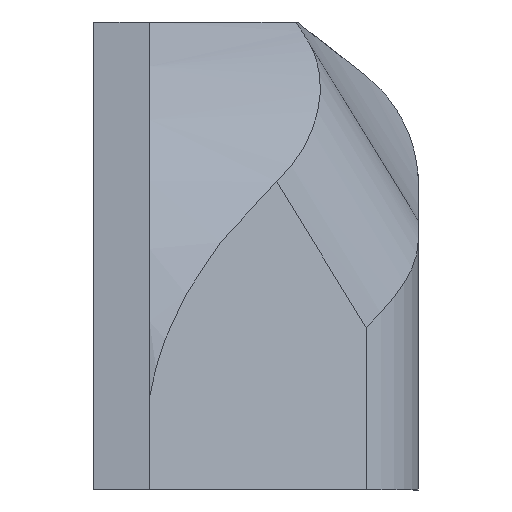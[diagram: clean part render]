
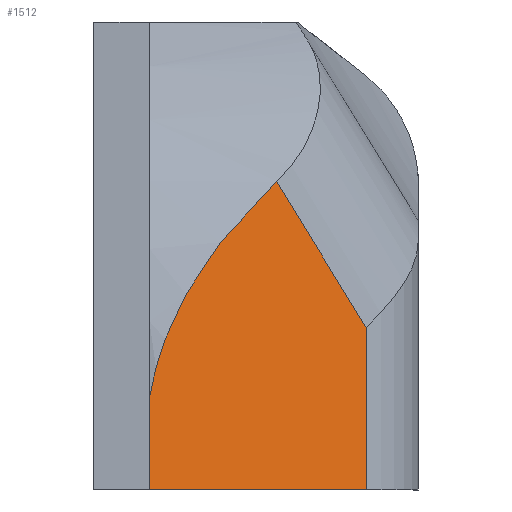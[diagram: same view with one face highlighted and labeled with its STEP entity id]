
A CAD part, front view. The second image highlights one B-rep face of the part: STEP entity #1512.
In plain terms, the highlighted planar face has unit normal (0.5, -0.866, 0).
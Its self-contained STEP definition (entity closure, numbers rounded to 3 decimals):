
#36=ELLIPSE('',#1633,140.636,70.318);
#114=FACE_OUTER_BOUND('',#205,.T.);
#205=EDGE_LOOP('',(#1117,#1118,#1119,#1120,#1121));
#309=LINE('',#2168,#467);
#331=LINE('',#2311,#489);
#357=LINE('',#2393,#515);
#358=LINE('',#2394,#516);
#467=VECTOR('',#1732,10.);
#489=VECTOR('',#1802,10.);
#515=VECTOR('',#1898,10.);
#516=VECTOR('',#1899,10.);
#628=VERTEX_POINT('',#2165);
#629=VERTEX_POINT('',#2167);
#664=VERTEX_POINT('',#2276);
#668=VERTEX_POINT('',#2296);
#686=VERTEX_POINT('',#2363);
#774=EDGE_CURVE('',#628,#629,#309,.T.);
#815=EDGE_CURVE('',#664,#668,#331,.T.);
#841=EDGE_CURVE('',#668,#686,#36,.T.);
#856=EDGE_CURVE('',#664,#628,#357,.T.);
#857=EDGE_CURVE('',#629,#686,#358,.T.);
#1117=ORIENTED_EDGE('',*,*,#856,.F.);
#1118=ORIENTED_EDGE('',*,*,#815,.T.);
#1119=ORIENTED_EDGE('',*,*,#841,.T.);
#1120=ORIENTED_EDGE('',*,*,#857,.F.);
#1121=ORIENTED_EDGE('',*,*,#774,.F.);
#1440=PLANE('',#1643);
#1512=ADVANCED_FACE('',(#114),#1440,.F.);
#1633=AXIS2_PLACEMENT_3D('',#2365,#1862,#1863);
#1643=AXIS2_PLACEMENT_3D('',#2392,#1896,#1897);
#1732=DIRECTION('',(-0.866,-0.5,0.));
#1802=DIRECTION('',(-0.501,-0.289,0.816));
#1862=DIRECTION('center_axis',(0.5,-0.866,0.));
#1863=DIRECTION('ref_axis',(0.866,0.5,0.));
#1896=DIRECTION('center_axis',(-0.5,0.866,0.));
#1897=DIRECTION('ref_axis',(-0.866,-0.5,0.));
#1898=DIRECTION('',(0.,0.,-1.));
#1899=DIRECTION('',(0.,0.,1.));
#2165=CARTESIAN_POINT('',(72.226,-245.123,-7.916));
#2167=CARTESIAN_POINT('',(41.262,-263.,-7.916));
#2168=CARTESIAN_POINT('',(77.726,-241.947,-7.916));
#2276=CARTESIAN_POINT('',(72.226,-245.123,15.378));
#2296=CARTESIAN_POINT('',(59.427,-252.512,36.222));
#2311=CARTESIAN_POINT('',(70.436,-246.156,18.294));
#2363=CARTESIAN_POINT('',(41.262,-263.,5.448));
#2365=CARTESIAN_POINT('Origin',(162.505,-193.,-1.234));
#2392=CARTESIAN_POINT('Origin',(77.726,-241.947,-7.916));
#2393=CARTESIAN_POINT('',(72.226,-245.123,-17.916));
#2394=CARTESIAN_POINT('',(41.262,-263.,-7.916));
